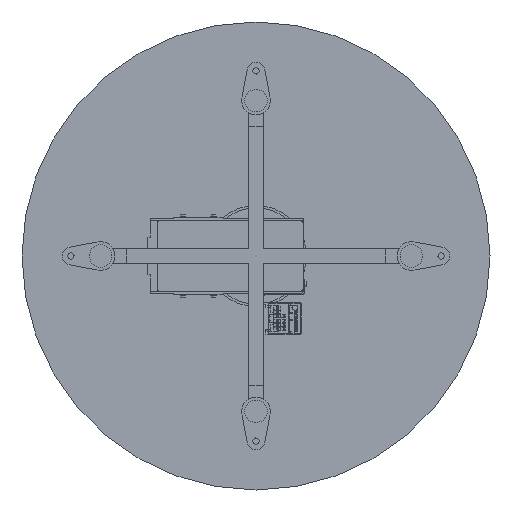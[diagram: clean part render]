
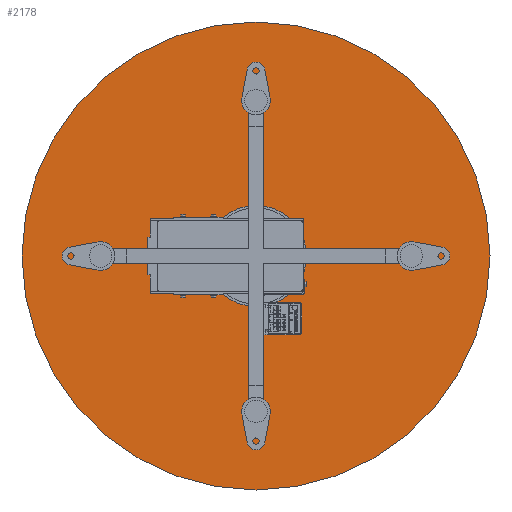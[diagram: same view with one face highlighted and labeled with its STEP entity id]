
A CAD part, front view. The second image highlights one B-rep face of the part: STEP entity #2178.
In plain terms, the highlighted planar face has unit normal (0, -1, 0).
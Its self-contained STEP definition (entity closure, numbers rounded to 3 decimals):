
#2178=ADVANCED_FACE('',(#14519,#14520),#14518,.F.);
#14518=PLANE('',#25007);
#14519=FACE_OUTER_BOUND('',#25008,.T.);
#14520=FACE_BOUND('',#25009,.T.);
#25004=CARTESIAN_POINT('',(-870.829,26.,-1004.));
#25005=DIRECTION('',(0.,1.,0.));
#25006=DIRECTION('',(0.,0.,1.));
#25007=AXIS2_PLACEMENT_3D('',#25004,#25005,#25006);
#25008=EDGE_LOOP('',(#32612,#32613));
#25009=EDGE_LOOP('',(#32614,#32615));
#32612=ORIENTED_EDGE('',*,*,#37132,.F.);
#32613=ORIENTED_EDGE('',*,*,#37133,.F.);
#32614=ORIENTED_EDGE('',*,*,#37134,.T.);
#32615=ORIENTED_EDGE('',*,*,#37135,.T.);
#37132=EDGE_CURVE('',#57771,#57772,#57773,.T.);
#37133=EDGE_CURVE('',#57772,#57771,#57779,.T.);
#37134=EDGE_CURVE('',#57785,#57786,#57787,.T.);
#37135=EDGE_CURVE('',#57786,#57785,#57793,.T.);
#57771=VERTEX_POINT('',#75707);
#57772=VERTEX_POINT('',#75708);
#57773=CIRCLE('',#75712,497.);
#57779=CIRCLE('',#75716,497.);
#57785=VERTEX_POINT('',#75717);
#57786=VERTEX_POINT('',#75718);
#57787=CIRCLE('',#75722,107.5);
#57793=CIRCLE('',#75726,107.5);
#75707=CARTESIAN_POINT('',(0.,26.,-497.));
#75708=CARTESIAN_POINT('',(0.,26.,497.));
#75709=CARTESIAN_POINT('',(0.,26.,0.));
#75710=DIRECTION('',(0.,1.,0.));
#75711=DIRECTION('',(0.,0.,1.));
#75712=AXIS2_PLACEMENT_3D('',#75709,#75710,#75711);
#75713=CARTESIAN_POINT('',(0.,26.,0.));
#75714=DIRECTION('',(0.,1.,0.));
#75715=DIRECTION('',(0.,0.,1.));
#75716=AXIS2_PLACEMENT_3D('',#75713,#75714,#75715);
#75717=CARTESIAN_POINT('',(0.,26.,107.5));
#75718=CARTESIAN_POINT('',(0.,26.,-107.5));
#75719=CARTESIAN_POINT('',(0.,26.,0.));
#75720=DIRECTION('',(0.,1.,0.));
#75721=DIRECTION('',(0.,0.,1.));
#75722=AXIS2_PLACEMENT_3D('',#75719,#75720,#75721);
#75723=CARTESIAN_POINT('',(0.,26.,0.));
#75724=DIRECTION('',(0.,1.,0.));
#75725=DIRECTION('',(0.,0.,1.));
#75726=AXIS2_PLACEMENT_3D('',#75723,#75724,#75725);
